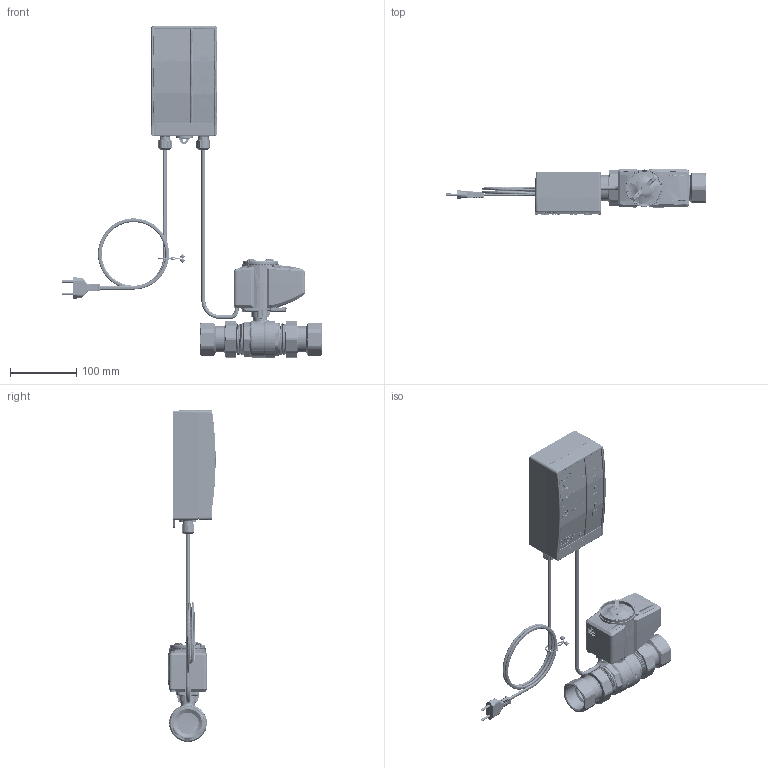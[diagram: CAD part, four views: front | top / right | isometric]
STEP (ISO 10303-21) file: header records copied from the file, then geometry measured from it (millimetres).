
FILE_DESCRIPTION (( 'STEP AP214' ), '1' );
FILE_NAME ('WATERCONTROL_System_detekcji_wycieku_42575_0_3D_AFRISO.STEP', '2024-03-18T10:00:40', ( '' ), ( '' ), 'SwSTEP 2.0', 'SolidWorks 2022', '' );
FILE_SCHEMA (( 'AUTOMOTIVE_DESIGN' ));
Length unit declared in the file: millimetre
Products named in the file (67): 18 05 000003_Folientastatur Signalteil selbstkl.; Symbole; Linsenkopfschraube _709 000 0006_0; Klemmk_X_F6rper f. Kabelverschraubung M16x1,5_685 000 0047_0_2; 05 00 410237__X_DCberwurfmutter G1 1_2 SW52-8kt MS; WATERCONTROL_System_detekcji_wycieku_42575_0_3D_AFRISO; 13 40 000001_Kabeldriller B_X_FCndelung 13,5-16; 2x _X_DCberwurfmutter M16x1,5_09 01 000012_0; 05 00 000280_Verschraubung G1 1_2-_X_DCMxG1 1_4-IG; VITE2,9x32 - Vite autofilettante 2,9x32.STEP; Klemmk_X_F6rper f. Kabelverschraubung M16x1,5_685 000 0047_0; Kontakte; Frontschild WaterControl 01_09 03 010005_0; LINSENBLECHSCHRAUBEN_3,5; ISO 7049-ST 2.2x4.5-C-H_907981 2245_0; Kabel; LINSENBLECHSCHRAUBEN_2,2; 05 00 42 80_Verschraubung G1 1_2-_X_DCMxG1 1_4-IG vor_m._2; O-Ring _X_F86,50x1,50mm NBR 70 _X_B15 IRHD_801 000 01_04_0; 09 01 000002_Geh_X_E4use Oberteil Signalteil; watchdog; Corpo-DN32-Lavorato; Sperrscheibe f. Bolzen _X_F86mm_787 000 0003_0; 05 00 42 80_Verschraubung G1 1_2-_X_DCMxG1 1_4-IG vor_m.; Dichtring ID 9x11,5x7,5 f. PG-Einsatz M16x1,5_760 000 0113_0; ISO 7049-ST 2.2x4.5-C-H_907981 2245_0_2; 760 330 2080_Dichtung _X_F844x32x2mm Klingersil C-440_0; Tasten; 556 000 0016_Netzkabel mit Flachstecker 1,5m; Watchdog_Baugruppe; 907993 42025_Sprengring DIN7993-A42 (Welle _X_F842)_0_2; D-PP-022-PAR-010_Maniglia di sblocco MP22 nera.STEP; Gegenmutter M20x1,5 PA6 grau_685 000 0042; 760 330 2080_Dichtung _X_F844x32x2mm Klingersil C-440_0_2; Sperrscheibe f. Bolzen _X_F86mm_787 000 0003_0_2; 09 01 000001_Geh_X_E4useunterteil LAG 2006; ISO 7049-ST 2.2x4.5-C-H_907981 2245_0_3; D-PM-000-GEN-035_Copiglia a forchetta RIP-MP22 rev1.STEP; SPERRSCHEIBEN; Blindverschraubung NG 20 PS_685 000 0053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
Assembly tree (68 placements, depth 5):
  WATERCONTROL_System_detekcji_wycieku_42575_0_3D_AFRISO
    42575_WaterControl 01.1 G1 1_4
      _X_DCberwurfmutter M16x1,5_09 01 000012_0
      2x _X_DCberwurfmutter M16x1,5_09 01 000012_0
      Klemmk_X_F6rper f. Kabelverschraubung M16x1,5_685 000 0047_0
        Klemmk_X_F6rper f. Kabelverschraubung M16x1,5_685 000 0047_0
        Dichtring ID 9x11,8x7,5 f. PG-Einsatz M16x1,5_760 000 0113_0
      Klemmk_X_F6rper f. Kabelverschraubung M16x1,5_685 000 0047_0_2
        Klemmk_X_F6rper f. Kabelverschraubung M16x1,5_685 000 0047_0_2
        Dichtring ID 9x11,5x7,5 f. PG-Einsatz M16x1,5_760 000 0113_0
      LINSENBLECHSCHRAUBEN_3,5
        Linsenkopfschraube _709 000 0006_0
        Linsenkopfschraube 3,5x20 f. Kunststoffe_709 000 0006_0
      SPERRSCHEIBEN
        Sperrscheibe f. Bolzen _X_F86mm_787 000 0003_0
        Sperrscheibe f. Bolzen _X_F86mm_787 000 0003_0_2
      LINSENBLECHSCHRAUBEN_2,2
        ISO 7049-ST 2.2x4.5-C-H_907981 2245_0
        ISO 7049-ST 2.2x4.5-C-H_907981 2245_0_2
        ISO 7049-ST 2.2x4.5-C-H_907981 2245_0_3
        ISO 7049-ST 2.2x4.5-C-H_907981 2245_0_4
      O-Ring _X_F86,50x1,50mm NBR 70 _X_B15 IRHD_801 000 01_04_0
      O-Ring _X_F86,50x1,50mm NBR 70 _X_B15 IRHD_801 000 01_04_0
      Frontschild WaterControl 01_09 03 010005_0
        Frontschild WaterControl 01_09 03 010005_0
        frontschildbedruckung_Baugruppe
          Symbole
          watchdog
          schrift
      Gegenmutter M20x1,5 PA6 grau_685 000 0042
      Blindverschraubung NG 20 PS_685 000 0053
      18 05 000003_Folientastatur Signalteil selbstkl.
        18 05 000003_Folientastatur Signalteil selbstkl.
        Tasten
      13 40 000001_Kabeldriller B_X_FCndelung 13,5-16
        13 40 000001_Kabeldriller B_X_FCndelung 13,5-16
      556 000 0016_Netzkabel mit Flachstecker 1,5m
        Flachstecker
        Kontakte
      09 01 000001_Geh_X_E4useunterteil LAG 2006
      09 01 000002_Geh_X_E4use Oberteil Signalteil
        09 01 000002_Geh_X_E4use Oberteil Signalteil
      Blende LAG 2006 mit AFRISO-Logo_09 01 000010
        Blende LAG 2006 mit AFRISO-Logo_09 01 000010
        AFRISO-LOGO_NEU_2012
          AFRISO-LOGO_NEU_2012
          A
      05 00 000319_Antrieb 24V WaterControl
        Parte19^NVM03_MP22 con sblocco.STEP
        D-PP-022-PAR-006_Chiudi copiglia MP22.STEP
        D-PP-022-PAR-006_Chiudi copiglia MP22.STEP_2
        D-PM-000-GEN-035_Copiglia a forchetta RIP-MP22 rev1.STEP
        D-PP-022-PAR-010_Maniglia di sblocco MP22 nera.STEP
        VITE2,9x32 - Vite autofilettante 2,9x32.STEP
      05 09 000078_Kugelhahn G1 1_2a_a WaterControl 01
        Corpo-DN32-Lavorato
      Watchdog_Baugruppe
        05 00 42 80_Verschraubung G1 1_2-_X_DCMxG1 1_4-IG vor_m.
          907993 42025_Sprengring DIN7993-A42 (Welle _X_F842)_0
          05 00 410237__X_DCberwurfmutter G1 1_2 SW52-8kt MS
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Bounding box: 392.26 x 71.34 x 500.6 mm (x, y, z)
Volume: 298135.4 mm3; surface area: 373478.6 mm2
Topology: 156 solids, 167 shells, 10756 faces, 29873 edges, 19420 vertices
Faces by surface type: cylinder 6054, plane 3215, bspline 1112, cone 361, torus 14
Entity records: 505110 total; most frequent: CARTESIAN_POINT 219670, ORIENTED_EDGE 59639, DIRECTION 38864, EDGE_CURVE 29842, VERTEX_POINT 19508, LINE 13328, VECTOR 13328, B_SPLINE_CURVE_WITH_KNOTS 12797
